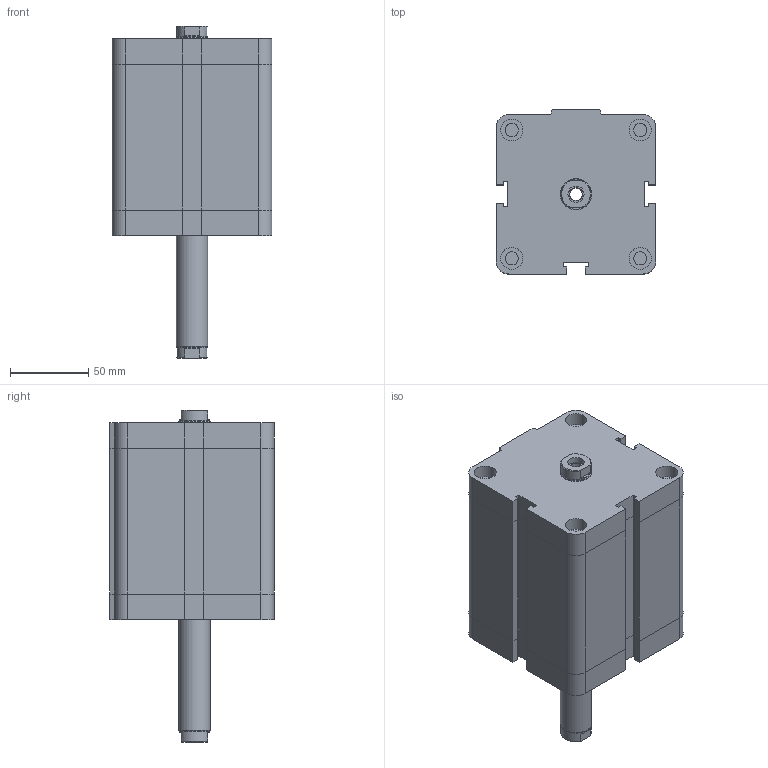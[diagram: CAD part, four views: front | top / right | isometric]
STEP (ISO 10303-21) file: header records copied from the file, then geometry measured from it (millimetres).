
FILE_DESCRIPTION((''),'2;1');
FILE_NAME('I:\Area Tecnica\Disegni\VARIE-3D\Componenti\EUROPE\15##_###_####_06_#\1581_80_0070_06_1.iam.stp','2009-04-20T15:12:24',(''),(''),'Autodesk Inventor 2009','Autodesk Inventor 2009','');
FILE_SCHEMA(('AUTOMOTIVE_DESIGN { 1 0 10303 214 1 1 1 1 }'));
Length unit declared in the file: millimetre
Products named in the file (3): 1581_80_0070_06_1; 1581_80_0070_03_1_C; 1561_80_0070_06_1_S
Assembly tree (2 placements, depth 2):
  1581_80_0070_06_1
    1581_80_0070_03_1_C
    1561_80_0070_06_1_S
Bounding box: 102 x 105 x 212 mm (x, y, z)
Volume: 1273658.8 mm3; surface area: 112294.6 mm2
Topology: 2 solids, 2 shells, 175 faces, 382 edges, 233 vertices
Faces by surface type: plane 114, bspline 30, cylinder 25, cone 6
Full cylindrical faces by diameter (mm): 8.376 x5, 10.3 x1, 14 x4, 19.5 x2, 20 x1
Entity records: 4805 total; most frequent: CARTESIAN_POINT 1042, DIRECTION 712, ORIENTED_EDGE 680, EDGE_CURVE 340, VECTOR 252, LINE 252, AXIS2_PLACEMENT_3D 230, EDGE_LOOP 230
